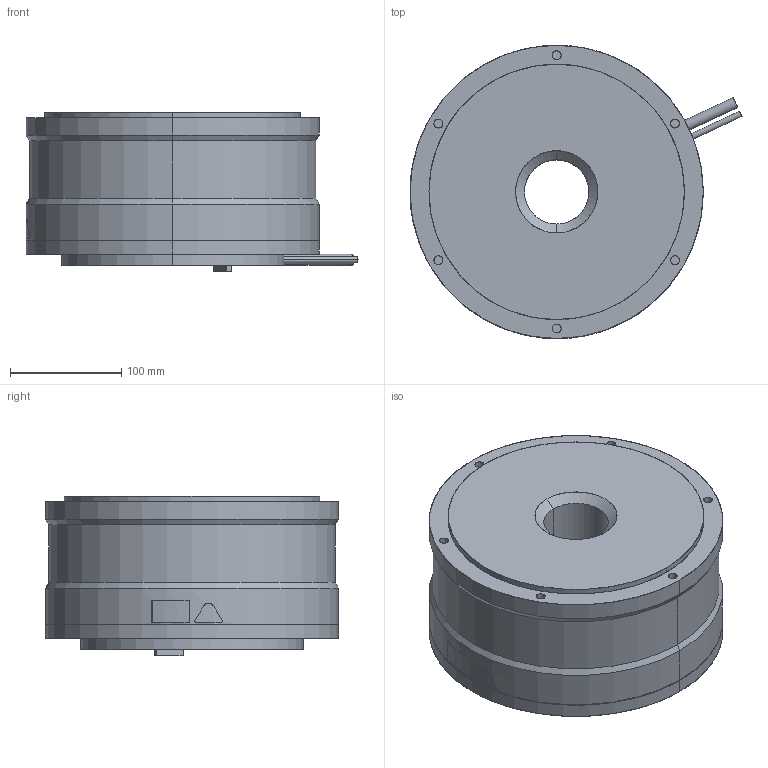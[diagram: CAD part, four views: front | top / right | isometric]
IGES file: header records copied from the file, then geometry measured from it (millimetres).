
Start section: SolidWorks IGES file using analytic representation for surfaces
Bounding box: 298.93 x 264 x 144 mm (x, y, z)
Surface area: 256116.7 mm2 (no closed solid volume)
Topology: 0 solids, 0 shells, 203 faces, 4730 edges, 4730 vertices
Faces by surface type: revolution 128, bspline 75
